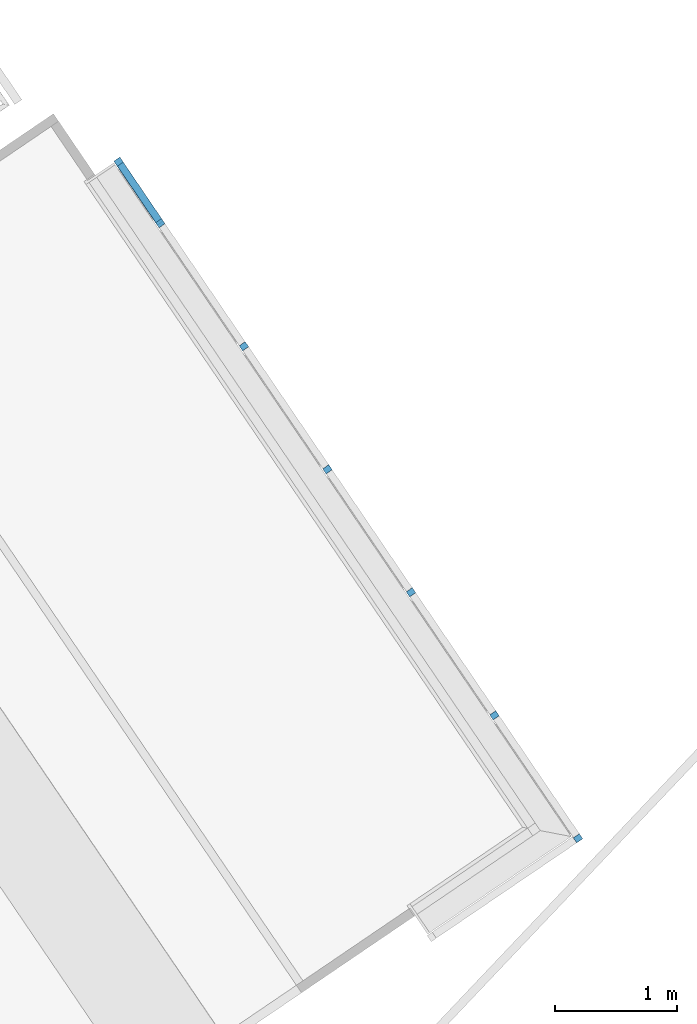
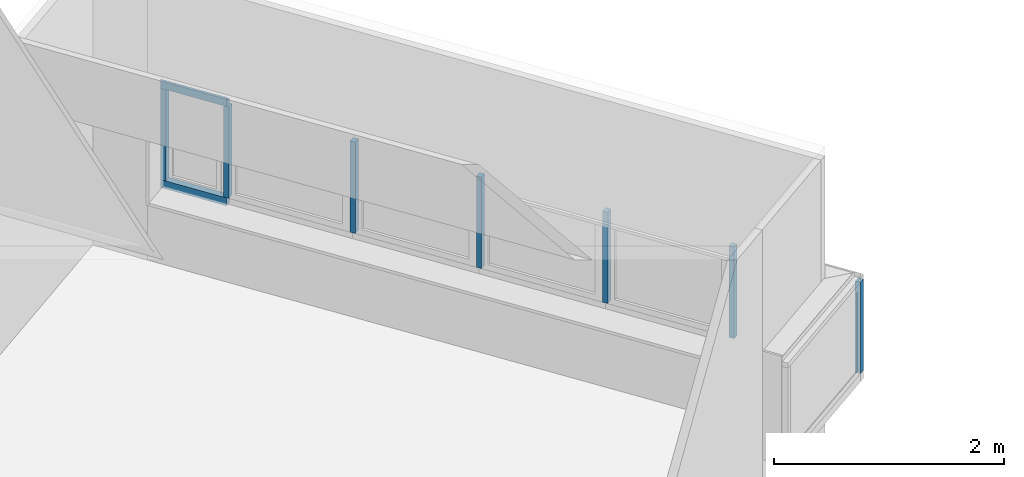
# One storey, part 103 of 243: 9 members, 1 element without a shape of its own.
"""IFC2X3 building model written with IfcOpenShell, lengths in metres."""

import ifcopenshell
import ifcopenshell.guid

model = None  # the IFC model being written
_history = None  # IfcOwnerHistory: only IFC2X3 demands one
_inside = {}  # id of a spatial element -> (the spatial element, [elements in it])
_under = {}  # id of a project, library or spatial element -> (it, [spatial elements below it])
_declared = {}  # id of a project -> (the project, [libraries it declares])
_typed = {}  # id of a type object -> (the type object, [elements of that type])
_made_of = {}  # id of a material, layer set ... -> (it, [elements and type objects made of it])


def new_model(schema):
    """Start an empty IFC model of exactly this schema.

    Asked for "IFC4X3", IfcOpenShell would pick the latest addendum, in which some entities
    have other attributes; the version numbers below select the first issue.
    IFC2X3 requires an IfcOwnerHistory on every rooted entity: one is made here for all.
    """
    global model, _history
    if schema == "IFC4X3":
        model = ifcopenshell.file(schema_version=(4, 3, 0, 0))
    else:
        model = ifcopenshell.file(schema=schema)
    _inside.clear()
    _under.clear()
    _declared.clear()
    _typed.clear()
    _made_of.clear()
    _history = None
    if model.schema == "IFC2X3":
        org = make("IfcOrganization", Name="unknown")
        user = make(
            "IfcPersonAndOrganization",
            ThePerson=make("IfcPerson", FamilyName="unknown"),
            TheOrganization=org,
        )
        app = make(
            "IfcApplication",
            ApplicationDeveloper=org,
            Version="unknown",
            ApplicationFullName="unknown",
            ApplicationIdentifier="unknown",
        )
        _history = make(
            "IfcOwnerHistory",
            OwningUser=user,
            OwningApplication=app,
            ChangeAction="ADDED",
            CreationDate=0,
        )
    return model


def make(cls, **values):
    """One entity of the class cls with the attributes given. An attribute that is None is left unset."""
    return model.create_entity(
        cls, **{name: value for name, value in values.items() if value is not None}
    )


def entity(cls, *values):
    """Any entity or typed value of the class cls, its attributes in the order of the schema. None: left unset."""
    e = model.create_entity(cls)
    for i, value in enumerate(values):
        if value is not None:
            e[i] = value
    return e


def rooted(cls, **values):
    """An entity with a GlobalId (a new one), such as an element, a storey or a relation."""
    return make(cls, GlobalId=ifcopenshell.guid.new(), OwnerHistory=_history, **values)


def si_unit(unit_type, name, prefix=None):
    """IfcSIUnit, for example si_unit("LENGTHUNIT", "METRE", prefix="MILLI")."""
    return make("IfcSIUnit", UnitType=unit_type, Prefix=prefix, Name=name)


def converted_unit(unit_type, name, factor, base, dimensions=None, offset=None):
    """IfcConversionBasedUnit, such as the inch: factor (a typed value) times the base unit."""
    return make(
        "IfcConversionBasedUnit"
        if offset is None
        else "IfcConversionBasedUnitWithOffset",
        ConversionOffset=offset,
        Dimensions=None
        if dimensions is None
        else entity("IfcDimensionalExponents", *dimensions),
        UnitType=unit_type,
        Name=name,
        ConversionFactor=make(
            "IfcMeasureWithUnit", ValueComponent=factor, UnitComponent=base
        ),
    )


def derived_unit(unit_type, elements):
    """IfcDerivedUnit: a product of units, each with its exponent."""
    return make(
        "IfcDerivedUnit",
        Elements=[
            make("IfcDerivedUnitElement", Unit=unit, Exponent=power)
            for unit, power in elements
        ],
        UnitType=unit_type,
    )


def assignment(units):
    """IfcUnitAssignment: the units of a project."""
    return None if units is None else make("IfcUnitAssignment", Units=units)


def point(xyz):
    """IfcCartesianPoint."""
    return None if xyz is None else make("IfcCartesianPoint", Coordinates=xyz)


def direction(xyz):
    """IfcDirection."""
    return None if xyz is None else make("IfcDirection", DirectionRatios=xyz)


def frame(location, z_axis=None, x_axis=None):
    """IfcAxis2Placement3D, a coordinate frame: its origin and axes. An axis left out is left unset."""
    return make(
        "IfcAxis2Placement3D",
        Location=point(location),
        Axis=direction(z_axis),
        RefDirection=direction(x_axis),
    )


def frame_2d(location, x_axis=None):
    """IfcAxis2Placement2D, a coordinate frame in the plane: its origin and x axis."""
    return make(
        "IfcAxis2Placement2D", Location=point(location), RefDirection=direction(x_axis)
    )


def origin():
    """The frame at (0, 0, 0) with its axes left unset."""
    return frame((0.0, 0.0, 0.0))


def origin_2d_with_axis():
    """The frame at (0, 0) in the plane with the x axis (1, 0) written out."""
    return frame_2d((0.0, 0.0), x_axis=(1.0, 0.0))


def place(relative_to, where):
    """IfcLocalPlacement: puts the frame where relative to a parent placement (None: the world)."""
    return make(
        "IfcLocalPlacement", PlacementRelTo=relative_to, RelativePlacement=where
    )


def context(
    kind, dimensions, precision=None, world=None, true_north=None, identifier=None
):
    """IfcGeometricRepresentationContext, for example the 3D "Model" context."""
    return make(
        "IfcGeometricRepresentationContext",
        ContextIdentifier=identifier,
        ContextType=kind,
        CoordinateSpaceDimension=dimensions,
        Precision=precision,
        WorldCoordinateSystem=world,
        TrueNorth=true_north,
    )


def subcontext(parent, identifier, kind, view, scale=None):
    """IfcGeometricRepresentationSubContext, for example "Body" below "Model"."""
    return make(
        "IfcGeometricRepresentationSubContext",
        ContextIdentifier=identifier,
        ContextType=kind,
        ParentContext=parent,
        TargetScale=scale,
        TargetView=view,
    )


def project(units=None, contexts=None):
    """IfcProject with its units and contexts."""
    return rooted(
        "IfcProject",
        Name="project",
        RepresentationContexts=contexts,
        UnitsInContext=assignment(units),
    )


def spatial(cls, under=None, at=None, **own):
    """A site, building, storey or space (cls), placed at a placement, below another one or the project."""
    s = rooted(cls, ObjectPlacement=at, **own)
    if under is not None:
        _under.setdefault(under.id(), (under, []))[1].append(s)
    return s


def polyline(points):
    """IfcPolyline through the points."""
    return make("IfcPolyline", Points=[point(p) for p in points])


def profile(cls, at=None, kind="AREA", **sizes):
    """A parametric profile (cls). Its sizes go by their IFC names, for example OverallWidth=200.0."""
    return make(cls, ProfileType=kind, Position=at, **sizes)


def rectangle(**sizes):
    """IfcRectangleProfileDef."""
    return profile("IfcRectangleProfileDef", **sizes)


def outline(outer, holes=None, kind="AREA"):
    """IfcArbitraryClosedProfileDef: a profile drawn as a closed curve; with holes, ...WithVoids."""
    if holes is None:
        return make("IfcArbitraryClosedProfileDef", ProfileType=kind, OuterCurve=outer)
    return make(
        "IfcArbitraryProfileDefWithVoids",
        ProfileType=kind,
        OuterCurve=outer,
        InnerCurves=holes,
    )


def extrude(swept, where, along, depth):
    """IfcExtrudedAreaSolid: the profile swept, set in the frame where, extruded along a direction by depth."""
    return make(
        "IfcExtrudedAreaSolid",
        SweptArea=swept,
        Position=where,
        ExtrudedDirection=direction(along),
        Depth=depth,
    )


def shape(context_of_items, identifier, shape_type, items):
    """IfcShapeRepresentation: the items that make up one representation, for example the "Body"."""
    return make(
        "IfcShapeRepresentation",
        ContextOfItems=context_of_items,
        RepresentationIdentifier=identifier,
        RepresentationType=shape_type,
        Items=items,
    )


def source(mapping_origin, context_of_items, identifier, shape_type, items):
    """IfcRepresentationMap: a shape defined once, which mapped items show again and again."""
    return make(
        "IfcRepresentationMap",
        MappingOrigin=mapping_origin,
        MappedRepresentation=shape(context_of_items, identifier, shape_type, items),
    )


def transform(
    local_origin,
    x_axis=None,
    y_axis=None,
    z_axis=None,
    scale=None,
    scale2=None,
    scale3=None,
    uniform=True,
):
    """IfcCartesianTransformationOperator3D, or its non-uniform kind. x_axis, y_axis, z_axis: its Axis1, 2, 3."""
    if uniform:
        return make(
            "IfcCartesianTransformationOperator3D",
            Axis1=direction(x_axis),
            Axis2=direction(y_axis),
            LocalOrigin=point(local_origin),
            Scale=scale,
            Axis3=direction(z_axis),
        )
    return make(
        "IfcCartesianTransformationOperator3DnonUniform",
        Axis1=direction(x_axis),
        Axis2=direction(y_axis),
        LocalOrigin=point(local_origin),
        Scale=scale,
        Axis3=direction(z_axis),
        Scale2=scale2,
        Scale3=scale3,
    )


def mapped(mapping_source, mapping_target):
    """IfcMappedItem: shows the shape of a source again, moved by a transform."""
    return make(
        "IfcMappedItem", MappingSource=mapping_source, MappingTarget=mapping_target
    )


def material(Name=None, Category=None):
    """IfcMaterial."""
    return make("IfcMaterial", Name=Name, Category=Category)


def made_of(thing, what):
    """Note that an element or type object is made of a material, layer set ...; save() writes the relation."""
    if what is not None:
        _made_of.setdefault(what.id(), (what, []))[1].append(thing)
    return thing


def type_object(cls, material=None, **own):
    """A type object (cls), such as IfcWallType, which elements share."""
    return made_of(rooted(cls, **own), material)


def type_shapes(of_type, sources):
    """Give a type object the sources (RepresentationMaps) that its elements show as mapped items."""
    of_type.RepresentationMaps = sources


def element(
    cls,
    number,
    at=None,
    inside=None,
    cuts=None,
    type_object=None,
    material=None,
    context=None,
    identifier="Body",
    shape_type=None,
    held_by="IfcProductDefinitionShape",
    body=None,
    shapes=None,
    **own,
):
    """One element of the class cls, such as IfcWall. Its Tag is "e" and its number.

    at: its placement. inside: the storey or other place that contains it. cuts: it is an
    opening in that element (IfcRelVoidsElement). A single representation is given by context,
    identifier, shape_type and body (its items); several are given by shapes. held_by: the class
    of the entity that holds the representations. save() writes the other relations.
    """
    e = rooted(cls, Tag="e%d" % number, ObjectPlacement=at, **own)
    if body is not None:
        shapes = [shape(context, identifier, shape_type, body)]
    if shapes is not None:
        e.Representation = make(held_by, Representations=shapes)
    if inside is not None:
        _inside.setdefault(inside.id(), (inside, []))[1].append(e)
    if cuts is not None:
        rooted(
            "IfcRelVoidsElement", RelatingBuildingElement=cuts, RelatedOpeningElement=e
        )
    if type_object is not None:
        _typed.setdefault(type_object.id(), (type_object, []))[1].append(e)
    return made_of(e, material)


def aggregate(whole, parts):
    """IfcRelAggregates: a whole, such as a stair, and the parts it consists of."""
    return rooted("IfcRelAggregates", RelatingObject=whole, RelatedObjects=parts)


def save(model, path):
    """Write the relations noted so far, then the file.

    IfcRelAggregates (storeys below a building ...), IfcRelContainedInSpatialStructure (elements
    in a storey), IfcRelDefinesByType, IfcRelAssociatesMaterial and IfcRelDeclares: one each for
    every whole, place, type object, material and project.
    """
    for whole, parts in _under.values():
        aggregate(whole, parts)
    for where, things in _inside.values():
        rooted(
            "IfcRelContainedInSpatialStructure",
            RelatedElements=things,
            RelatingStructure=where,
        )
    for kind, things in _typed.values():
        rooted("IfcRelDefinesByType", RelatedObjects=things, RelatingType=kind)
    for what, things in _made_of.values():
        rooted("IfcRelAssociatesMaterial", RelatedObjects=things, RelatingMaterial=what)
    for by, libraries in _declared.values():
        rooted("IfcRelDeclares", RelatingContext=by, RelatedDefinitions=libraries)
    model.write(path)


model = new_model("IFC2X3")

# Units and contexts
model_context = context("Model", 3, precision=1e-05, world=origin(), true_north=direction((6.123031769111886e-17, 1.0)))
body_context = subcontext(model_context, "Body", "Model", "MODEL_VIEW")
ifc_project = project(units=[si_unit("LENGTHUNIT", "METRE"), si_unit("AREAUNIT", "SQUARE_METRE"), si_unit("VOLUMEUNIT", "CUBIC_METRE"), converted_unit("PLANEANGLEUNIT", "DEGREE", entity("IfcRatioMeasure", 0.017453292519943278), si_unit("PLANEANGLEUNIT", "RADIAN"), dimensions=[0, 0, 0, 0, 0, 0, 0]), si_unit("MASSUNIT", "GRAM", prefix="KILO"), derived_unit("MASSDENSITYUNIT", [(si_unit("MASSUNIT", "GRAM", prefix="KILO"), 1), (si_unit("LENGTHUNIT", "METRE"), -3)]), derived_unit("IONCONCENTRATIONUNIT", [(si_unit("MASSUNIT", "GRAM", prefix="KILO"), 1), (si_unit("LENGTHUNIT", "METRE"), -3)]), derived_unit("MOMENTOFINERTIAUNIT", [(si_unit("LENGTHUNIT", "METRE"), 4)]), si_unit("TIMEUNIT", "SECOND"), si_unit("FREQUENCYUNIT", "HERTZ"), si_unit("THERMODYNAMICTEMPERATUREUNIT", "DEGREE_CELSIUS"), derived_unit("THERMALTRANSMITTANCEUNIT", [(si_unit("MASSUNIT", "GRAM", prefix="KILO"), 1), (si_unit("THERMODYNAMICTEMPERATUREUNIT", "KELVIN"), -1), (si_unit("TIMEUNIT", "SECOND"), -3)]), derived_unit("THERMALCONDUCTANCEUNIT", [(si_unit("MASSUNIT", "GRAM", prefix="KILO"), 1), (si_unit("THERMODYNAMICTEMPERATUREUNIT", "KELVIN"), -1), (si_unit("TIMEUNIT", "SECOND"), -3), (si_unit("LENGTHUNIT", "METRE"), 1)]), derived_unit("VOLUMETRICFLOWRATEUNIT", [(si_unit("LENGTHUNIT", "METRE"), 3), (si_unit("TIMEUNIT", "SECOND"), -1)]), derived_unit("MASSFLOWRATEUNIT", [(si_unit("MASSUNIT", "GRAM", prefix="KILO"), 1), (si_unit("TIMEUNIT", "SECOND"), -1)]), derived_unit("ROTATIONALFREQUENCYUNIT", [(si_unit("TIMEUNIT", "SECOND"), -1)]), si_unit("ELECTRICCURRENTUNIT", "AMPERE"), si_unit("ELECTRICVOLTAGEUNIT", "VOLT"), si_unit("POWERUNIT", "WATT"), si_unit("FORCEUNIT", "NEWTON", prefix="KILO"), si_unit("ILLUMINANCEUNIT", "LUX"), si_unit("LUMINOUSFLUXUNIT", "LUMEN"), si_unit("LUMINOUSINTENSITYUNIT", "CANDELA"), derived_unit("USERDEFINED", [(si_unit("MASSUNIT", "GRAM", prefix="KILO"), -1), (si_unit("LENGTHUNIT", "METRE"), -2), (si_unit("TIMEUNIT", "SECOND"), 3), (si_unit("LUMINOUSFLUXUNIT", "LUMEN"), 1)]), derived_unit("USERDEFINED", [(si_unit("MASSUNIT", "GRAM", prefix="KILO"), 1), (si_unit("TIMEUNIT", "SECOND"), -3), (si_unit("LENGTHUNIT", "METRE"), 3), (si_unit("ELECTRICCURRENTUNIT", "AMPERE"), -2)]), derived_unit("SOUNDPOWERUNIT", [(si_unit("MASSUNIT", "GRAM", prefix="KILO"), 1), (si_unit("TIMEUNIT", "SECOND"), -3), (si_unit("LENGTHUNIT", "METRE"), 2)]), derived_unit("SOUNDPRESSUREUNIT", [(si_unit("MASSUNIT", "GRAM", prefix="KILO"), 1), (si_unit("LENGTHUNIT", "METRE"), -1), (si_unit("TIMEUNIT", "SECOND"), -2)]), derived_unit("LINEARVELOCITYUNIT", [(si_unit("LENGTHUNIT", "METRE"), 1), (si_unit("TIMEUNIT", "SECOND"), -1)]), si_unit("PRESSUREUNIT", "PASCAL"), derived_unit("USERDEFINED", [(si_unit("MASSUNIT", "GRAM", prefix="KILO"), 1), (si_unit("LENGTHUNIT", "METRE"), -2), (si_unit("TIMEUNIT", "SECOND"), -2)]), derived_unit("LINEARFORCEUNIT", [(si_unit("MASSUNIT", "GRAM", prefix="KILO"), 1), (si_unit("TIMEUNIT", "SECOND"), -2)]), derived_unit("PLANARFORCEUNIT", [(si_unit("MASSUNIT", "GRAM", prefix="KILO"), 1), (si_unit("LENGTHUNIT", "METRE"), -1), (si_unit("TIMEUNIT", "SECOND"), -2)]), derived_unit("SPECIFICHEATCAPACITYUNIT", [(si_unit("THERMODYNAMICTEMPERATUREUNIT", "KELVIN"), -1), (si_unit("LENGTHUNIT", "METRE"), 2), (si_unit("TIMEUNIT", "SECOND"), -2)]), derived_unit("HEATINGVALUEUNIT", [(si_unit("LENGTHUNIT", "METRE"), 2), (si_unit("TIMEUNIT", "SECOND"), -2)]), derived_unit("VAPORPERMEABILITYUNIT", [(si_unit("LENGTHUNIT", "METRE"), -1), (si_unit("TIMEUNIT", "SECOND"), 1)]), derived_unit("DYNAMICVISCOSITYUNIT", [(si_unit("MASSUNIT", "GRAM", prefix="KILO"), 1), (si_unit("TIMEUNIT", "SECOND"), -1), (si_unit("LENGTHUNIT", "METRE"), -1)]), derived_unit("THERMALEXPANSIONCOEFFICIENTUNIT", [(si_unit("THERMODYNAMICTEMPERATUREUNIT", "KELVIN"), -1)]), derived_unit("MODULUSOFELASTICITYUNIT", [(si_unit("MASSUNIT", "GRAM", prefix="KILO"), 1), (si_unit("LENGTHUNIT", "METRE"), -1), (si_unit("TIMEUNIT", "SECOND"), -2)]), derived_unit("ISOTHERMALMOISTURECAPACITYUNIT", [(si_unit("LENGTHUNIT", "METRE"), 3), (si_unit("MASSUNIT", "GRAM", prefix="KILO"), -1)]), derived_unit("MOISTUREDIFFUSIVITYUNIT", [(si_unit("TIMEUNIT", "SECOND"), -1), (si_unit("LENGTHUNIT", "METRE"), 2)])], contexts=[model_context])

# Site, building, storey
site_placement = place(None, frame((0.0, 0.0, 235.0), z_axis=(0.0, 0.0, 1.0), x_axis=(-0.7996477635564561, 0.6004693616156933, 0.0)))
site = spatial("IfcSite", under=ifc_project, at=site_placement, Name="Default", CompositionType="ELEMENT")
building_placement = place(site_placement, origin())
building = spatial("IfcBuilding", under=site, at=building_placement, CompositionType="ELEMENT")
storey_placement = place(building_placement, origin())
storey = spatial("IfcBuildingStorey", under=building, at=storey_placement, Name="P0- Escola", CompositionType="ELEMENT", Elevation=0.0)

# Curtain wall, members
curtain_wall_type = type_object("IfcCurtainWallType", Name="Muro cortina:MC- EXT- MC7", PredefinedType="NOTDEFINED")
curtain_wall_placement = place(storey_placement, origin())
curtain_wall = element("IfcCurtainWall", 1, at=curtain_wall_placement, inside=storey, type_object=curtain_wall_type, Name="Muro cortina:MC- EXT- MC7", ObjectType="Muro cortina:MC- EXT- MC7")
ifc_material = material(Name="_Alumini- T1- Perfil")
member_type_1 = type_object("IfcMemberType", Name="Montante rectangular:MC- Alu- 140x52,5 cm- Fa pista- Superior", PredefinedType="MULLION", material=ifc_material)
shared_shape_1 = source(origin(), body_context, "Body", "SweptSolid", [
    extrude(outline(polyline([(-0.03933333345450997, -0.04916666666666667), (0.02066666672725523, -0.04916666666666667), (0.020666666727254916, 0.048333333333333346), (0.018666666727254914, 0.04833333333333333), (0.018666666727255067, 0.00083333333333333), (-0.03933333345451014, 0.00083333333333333), (-0.03933333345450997, -0.04916666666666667)])), frame((-0.048333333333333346, -0.03933333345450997, -0.6339999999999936), z_axis=(0.0, 0.0, 1.0), x_axis=(0.0, -1.0, 0.0)), (0.0, 0.0, 1.0), 0.6339999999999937),
])
type_shapes(member_type_1, [shared_shape_1])
member_1_placement = place(curtain_wall_placement, frame((64.25890149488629, -52.9641171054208, 1.7499999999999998), z_axis=(0.9460037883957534, -0.3241555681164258, 0.0), x_axis=(0.0, 0.0, 1.0)))
member_1 = element("IfcMember", 2, at=member_1_placement, type_object=member_type_1, material=ifc_material, Name="Montante rectangular:MC- Alu- 140x52,5 cm- Fa pista- Superior", ObjectType="Montante rectangular:MC- Alu- 140x52,5 cm- Fa pista- Superior", context=body_context, shape_type="MappedRepresentation", body=[
    mapped(shared_shape_1, transform((0.0, 0.0, 0.0), scale=1.0)),
])
member_type_2 = type_object("IfcMemberType", Name="Montante rectangular:MC- Alu- 50x60 cm- Fa pista- Centre", PredefinedType="MULLION", material=ifc_material)
shared_shape_2 = source(origin(), body_context, "Body", "SweptSolid", [
    extrude(rectangle(XDim=0.06000000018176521, YDim=0.05, at=frame_2d((3.469446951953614e-18, 0.0), x_axis=(1.0, 0.0))), frame((-0.025, -0.030000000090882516, -0.9674999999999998), z_axis=(0.0, 0.0, 1.0), x_axis=(0.0, -1.0, 0.0)), (0.0, 0.0, 1.0), 0.9674999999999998),
])
type_shapes(member_type_2, [shared_shape_2])
member_2_placement = place(curtain_wall_placement, frame((64.25890149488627, -52.9641171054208, 0.685), z_axis=(0.0, 0.0, -1.0), x_axis=(0.9460037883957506, -0.3241555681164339, 0.0)))
member_2 = element("IfcMember", 3, at=member_2_placement, type_object=member_type_2, material=ifc_material, Name="Montante rectangular:MC- Alu- 50x60 cm- Fa pista- Centre", ObjectType="Montante rectangular:MC- Alu- 50x60 cm- Fa pista- Centre", context=body_context, shape_type="MappedRepresentation", body=[
    mapped(shared_shape_2, transform((0.0, 0.0, 0.0), scale=1.0)),
])
member_type_3 = type_object("IfcMemberType", Name="Montante rectangular:MC- Alu- 50x60 cm- Fa pista- Centre", PredefinedType="MULLION", material=ifc_material)
shared_shape_3 = source(origin(), body_context, "Body", "SweptSolid", [
    extrude(rectangle(XDim=0.0600000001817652, YDim=0.05, at=origin_2d_with_axis()), frame((-0.025, -0.030000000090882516, -0.9674999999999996), z_axis=(0.0, 0.0, 1.0), x_axis=(0.0, -1.0, 0.0)), (0.0, 0.0, 1.0), 0.9674999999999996),
])
type_shapes(member_type_3, [shared_shape_3])
member_3_placement = place(curtain_wall_placement, frame((57.87337592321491, -50.77606702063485, 1.6524999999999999), z_axis=(0.0, 0.0, 1.0), x_axis=(-0.9460037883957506, 0.3241555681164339, 0.0)))
member_3 = element("IfcMember", 4, at=member_3_placement, type_object=member_type_3, material=ifc_material, Name="Montante rectangular:MC- Alu- 50x60 cm- Fa pista- Centre", ObjectType="Montante rectangular:MC- Alu- 50x60 cm- Fa pista- Centre", context=body_context, shape_type="MappedRepresentation", body=[
    mapped(shared_shape_3, transform((0.0, 0.0, 0.0), scale=1.0)),
])
member_type_4 = type_object("IfcMemberType", Name="Montante rectangular:MC- Alu- 52x80 cm- Fa pista- inferior", PredefinedType="MULLION", material=ifc_material)
shared_shape_4 = source(origin(), body_context, "Body", "SweptSolid", [
    extrude(rectangle(XDim=0.06000000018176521, YDim=0.085, at=origin_2d_with_axis()), frame((-0.0425, -0.030000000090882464, -0.6339999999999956), z_axis=(0.0, 0.0, 1.0), x_axis=(0.0, -1.0, 0.0)), (0.0, 0.0, 1.0), 0.6339999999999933),
])
type_shapes(member_type_4, [shared_shape_4])
member_4_placement = place(curtain_wall_placement, frame((63.659135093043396, -52.758602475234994, 0.6000000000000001), z_axis=(-0.9460037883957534, 0.3241555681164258, 0.0), x_axis=(0.0, 0.0, -1.0)))
member_4 = element("IfcMember", 5, at=member_4_placement, type_object=member_type_4, material=ifc_material, Name="Montante rectangular:MC- Alu- 52x80 cm- Fa pista- inferior", ObjectType="Montante rectangular:MC- Alu- 52x80 cm- Fa pista- inferior", context=body_context, shape_type="MappedRepresentation", body=[
    mapped(shared_shape_4, transform((0.0, 0.0, 0.0), scale=1.0)),
])
member_type_5 = type_object("IfcMemberType", Name="Montante rectangular:MC- Alu- 50x60 cm- Fa pista- Centre", PredefinedType="MULLION", material=ifc_material)
shared_shape_5 = source(origin(), body_context, "Body", "SweptSolid", [
    extrude(rectangle(XDim=0.0600000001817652, YDim=0.05, at=frame_2d((8.673617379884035e-18, 0.0), x_axis=(1.0, 0.0))), frame((0.0, -0.030000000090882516, -0.9674999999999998), z_axis=(0.0, 0.0, 1.0), x_axis=(0.0, -1.0, 0.0)), (0.0, 0.0, 1.0), 0.9674999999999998),
])
type_shapes(member_type_5, [shared_shape_5])
member_5_placement = place(curtain_wall_placement, frame((63.65913509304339, -52.75860247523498, 0.685), z_axis=(0.0, 0.0, -1.0), x_axis=(0.9460037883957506, -0.3241555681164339, 0.0)))
member_5 = element("IfcMember", 6, at=member_5_placement, type_object=member_type_5, material=ifc_material, Name="Montante rectangular:MC- Alu- 50x60 cm- Fa pista- Centre", ObjectType="Montante rectangular:MC- Alu- 50x60 cm- Fa pista- Centre", context=body_context, shape_type="MappedRepresentation", body=[
    mapped(shared_shape_5, transform((0.0, 0.0, 0.0), scale=1.0)),
])
member_6_placement = place(curtain_wall_placement, frame((62.50595647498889, -52.36345683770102, 0.685), z_axis=(0.0, 0.0, -1.0), x_axis=(0.9460037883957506, -0.3241555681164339, 0.0)))
member_6 = element("IfcMember", 7, at=member_6_placement, type_object=member_type_5, material=ifc_material, Name="Montante rectangular:MC- Alu- 50x60 cm- Fa pista- Centre", ObjectType="Montante rectangular:MC- Alu- 50x60 cm- Fa pista- Centre", context=body_context, shape_type="MappedRepresentation", body=[
    mapped(shared_shape_5, transform((0.0, 0.0, 0.0), scale=1.0)),
])
member_7_placement = place(curtain_wall_placement, frame((61.35372386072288, -51.96863535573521, 0.685), z_axis=(0.0, 0.0, -1.0), x_axis=(0.9460037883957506, -0.3241555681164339, 0.0)))
member_7 = element("IfcMember", 8, at=member_7_placement, type_object=member_type_5, material=ifc_material, Name="Montante rectangular:MC- Alu- 50x60 cm- Fa pista- Centre", ObjectType="Montante rectangular:MC- Alu- 50x60 cm- Fa pista- Centre", context=body_context, shape_type="MappedRepresentation", body=[
    mapped(shared_shape_5, transform((0.0, 0.0, 0.0), scale=1.0)),
])
member_8_placement = place(curtain_wall_placement, frame((60.20149124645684, -51.57381387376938, 0.685), z_axis=(0.0, 0.0, -1.0), x_axis=(0.9460037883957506, -0.3241555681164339, 0.0)))
member_8 = element("IfcMember", 9, at=member_8_placement, type_object=member_type_5, material=ifc_material, Name="Montante rectangular:MC- Alu- 50x60 cm- Fa pista- Centre", ObjectType="Montante rectangular:MC- Alu- 50x60 cm- Fa pista- Centre", context=body_context, shape_type="MappedRepresentation", body=[
    mapped(shared_shape_5, transform((0.0, 0.0, 0.0), scale=1.0)),
])
member_9_placement = place(curtain_wall_placement, frame((59.04925863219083, -51.178992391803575, 0.685), z_axis=(0.0, 0.0, -1.0), x_axis=(0.9460037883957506, -0.3241555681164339, 0.0)))
member_9 = element("IfcMember", 10, at=member_9_placement, type_object=member_type_5, material=ifc_material, Name="Montante rectangular:MC- Alu- 50x60 cm- Fa pista- Centre", ObjectType="Montante rectangular:MC- Alu- 50x60 cm- Fa pista- Centre", context=body_context, shape_type="MappedRepresentation", body=[
    mapped(shared_shape_5, transform((0.0, 0.0, 0.0), scale=1.0)),
])
aggregate(curtain_wall, [member_1, member_2, member_3, member_4, member_5, member_6, member_7, member_8, member_9])

save(model, "model.ifc")
